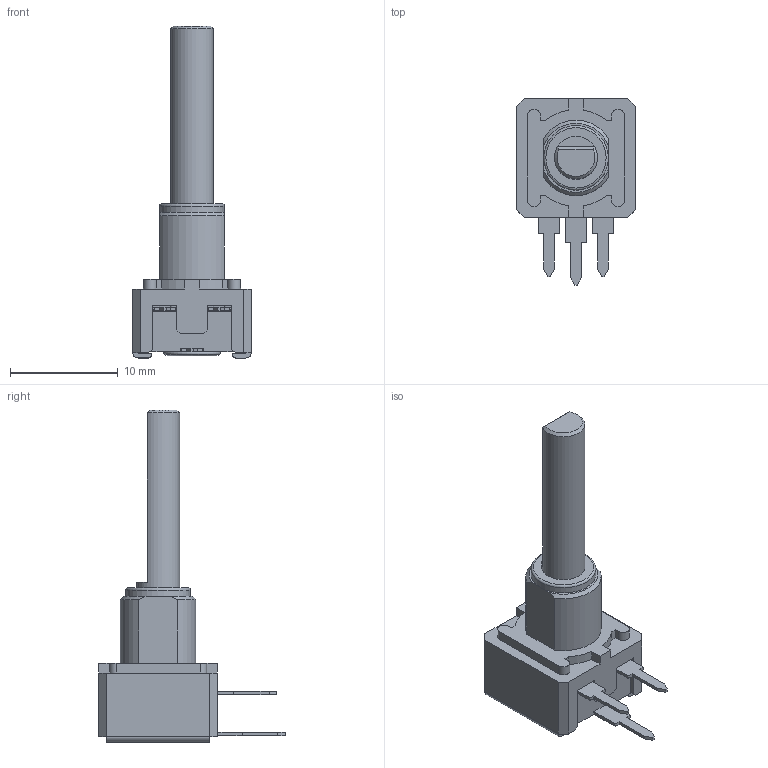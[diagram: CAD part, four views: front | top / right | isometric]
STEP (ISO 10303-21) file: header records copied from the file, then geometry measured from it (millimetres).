
FILE_DESCRIPTION(/* description */ (''),/* implementation_level */ '2;1');
FILE_NAME(/* name */ 'C:\Users\CEM\Desktop\ENVIAR\TRANSICION 3D CATALOGOS\MCA9DH3,8 WT-9020-NE.stp',/* time_stamp */ '2025-11-20T10:51:42+01:00',/* author */ ('CEM'),/* organization */ (''),/* preprocessor_version */ 'ST-DEVELOPER v16.13',/* originating_system */ 'Autodesk Inventor 2018',/* authorisation */ '');
FILE_SCHEMA (('AUTOMOTIVE_DESIGN { 1 0 10303 214 3 1 1 }'));
Length unit declared in the file: millimetre
Products named in the file (1): MCA9DH3,8 WT-9020-NE
Bounding box: 11 x 17.3 x 30.8 mm (x, y, z)
Volume: 936.4 mm3; surface area: 2039.3 mm2
Topology: 1 solids, 2 shells, 727 faces, 2044 edges, 1301 vertices
Faces by surface type: plane 568, cylinder 113, torus 24, cone 22
Full cylindrical faces by diameter (mm): 2.8 x1, 3 x1, 3.1 x1, 4 x3, 4.15 x1, 4.7 x1, 4.8 x1, 5 x1, 6 x1
Entity records: 23844 total; most frequent: CARTESIAN_POINT 4218, ORIENTED_EDGE 4038, DIRECTION 3792, EDGE_CURVE 2015, LINE 1610, VECTOR 1610, VERTEX_POINT 1293, AXIS2_PLACEMENT_3D 1091
